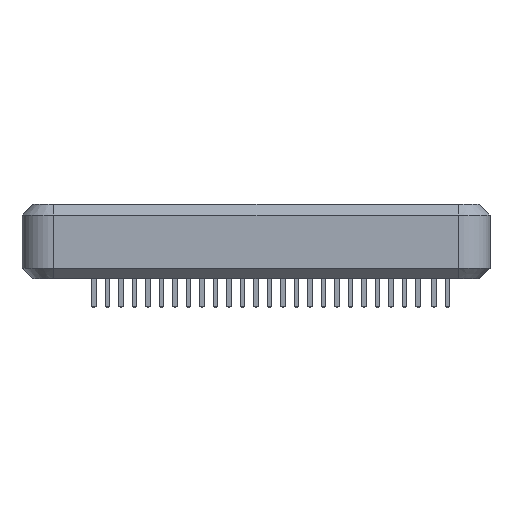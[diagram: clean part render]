
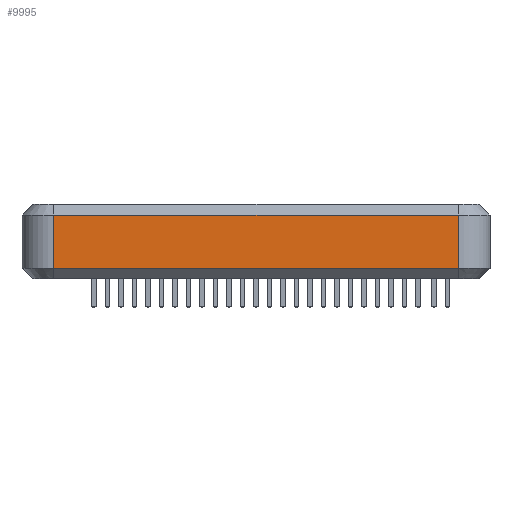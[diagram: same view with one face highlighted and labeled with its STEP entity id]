
A CAD part, left-side view. The second image highlights one B-rep face of the part: STEP entity #9995.
In plain terms, the highlighted planar face has unit normal (-1, 0, 0).
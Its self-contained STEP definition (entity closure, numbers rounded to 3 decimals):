
#215 = VERTEX_POINT('',#216);
#216 = CARTESIAN_POINT('',(-29.5,19.,1.));
#223 = EDGE_CURVE('',#224,#215,#226,.T.);
#224 = VERTEX_POINT('',#225);
#225 = CARTESIAN_POINT('',(-29.5,-19.,1.));
#226 = LINE('',#227,#228);
#227 = CARTESIAN_POINT('',(-29.5,-19.,1.));
#228 = VECTOR('',#229,1.);
#229 = DIRECTION('',(0.,1.,0.));
#9975 = EDGE_CURVE('',#215,#9976,#9978,.T.);
#9976 = VERTEX_POINT('',#9977);
#9977 = CARTESIAN_POINT('',(-29.5,19.,6.));
#9978 = LINE('',#9979,#9980);
#9979 = CARTESIAN_POINT('',(-29.5,19.,1.));
#9980 = VECTOR('',#9981,1.);
#9981 = DIRECTION('',(0.,0.,1.));
#9995 = ADVANCED_FACE('',(#9996),#10014,.T.);
#9996 = FACE_BOUND('',#9997,.T.);
#9997 = EDGE_LOOP('',(#9998,#10006,#10012,#10013));
#9998 = ORIENTED_EDGE('',*,*,#9999,.T.);
#9999 = EDGE_CURVE('',#224,#10000,#10002,.T.);
#10000 = VERTEX_POINT('',#10001);
#10001 = CARTESIAN_POINT('',(-29.5,-19.,6.));
#10002 = LINE('',#10003,#10004);
#10003 = CARTESIAN_POINT('',(-29.5,-19.,1.));
#10004 = VECTOR('',#10005,1.);
#10005 = DIRECTION('',(0.,0.,1.));
#10006 = ORIENTED_EDGE('',*,*,#10007,.T.);
#10007 = EDGE_CURVE('',#10000,#9976,#10008,.T.);
#10008 = LINE('',#10009,#10010);
#10009 = CARTESIAN_POINT('',(-29.5,-19.,6.));
#10010 = VECTOR('',#10011,1.);
#10011 = DIRECTION('',(0.,1.,0.));
#10012 = ORIENTED_EDGE('',*,*,#9975,.F.);
#10013 = ORIENTED_EDGE('',*,*,#223,.F.);
#10014 = PLANE('',#10015);
#10015 = AXIS2_PLACEMENT_3D('',#10016,#10017,#10018);
#10016 = CARTESIAN_POINT('',(-29.5,-19.,1.));
#10017 = DIRECTION('',(-1.,0.,0.));
#10018 = DIRECTION('',(0.,1.,0.));
